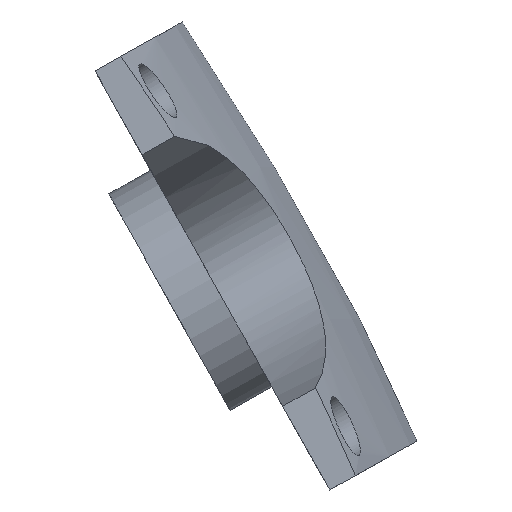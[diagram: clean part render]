
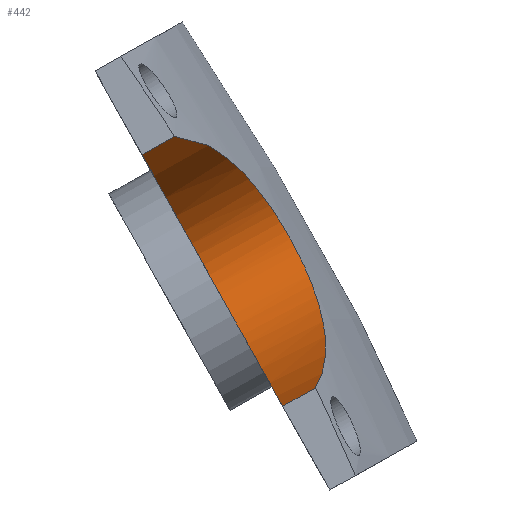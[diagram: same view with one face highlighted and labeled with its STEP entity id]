
A CAD part, left-side view. The second image highlights one B-rep face of the part: STEP entity #442.
In plain terms, the highlighted free-form (B-spline) face has degree [3, 1] with [4, 2] control points.
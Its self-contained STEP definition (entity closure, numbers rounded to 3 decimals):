
#15=B_SPLINE_SURFACE_WITH_KNOTS('',3,1,((#1077,#1078),(#1079,#1080),(#1081,
#1082),(#1083,#1084)),.UNSPECIFIED.,.F.,.F.,.F.,(4,4),(2,2),(0.,1.),(0.,
0.667),.UNSPECIFIED.);
#17=B_SPLINE_CURVE_WITH_KNOTS('',3,(#647,#648,#649,#650),.UNSPECIFIED.,
 .F.,.F.,(4,4),(0.,1.),.UNSPECIFIED.);
#19=B_SPLINE_CURVE_WITH_KNOTS('',3,(#720,#721,#722,#723,#724,#725,#726,
#727,#728,#729,#730,#731,#732,#733,#734,#735,#736,#737,#738,#739,#740,#741),
 .UNSPECIFIED.,.F.,.F.,(4,2,2,2,2,2,2,2,2,2,4),(0.,0.704,1.205,
1.522,1.728,1.897,2.066,2.267,
2.572,3.051,3.552),.UNSPECIFIED.);
#57=LINE('',#699,#81);
#62=LINE('',#716,#86);
#81=VECTOR('',#575,2.338);
#86=VECTOR('',#594,2.338);
#118=FACE_OUTER_BOUND('',#154,.T.);
#154=EDGE_LOOP('',(#371,#372,#373,#374));
#193=VERTEX_POINT('',#645);
#194=VERTEX_POINT('',#646);
#211=VERTEX_POINT('',#698);
#216=VERTEX_POINT('',#714);
#235=EDGE_CURVE('',#193,#194,#17,.T.);
#258=EDGE_CURVE('',#211,#193,#57,.T.);
#267=EDGE_CURVE('',#216,#194,#62,.T.);
#269=EDGE_CURVE('',#211,#216,#19,.T.);
#371=ORIENTED_EDGE('',*,*,#258,.T.);
#372=ORIENTED_EDGE('',*,*,#235,.T.);
#373=ORIENTED_EDGE('',*,*,#267,.F.);
#374=ORIENTED_EDGE('',*,*,#269,.F.);
#442=ADVANCED_FACE('',(#118),#15,.F.);
#575=DIRECTION('',(0.,0.873,-0.488));
#594=DIRECTION('',(0.,0.873,-0.488));
#645=CARTESIAN_POINT('',(-164.739,-163.783,224.037));
#646=CARTESIAN_POINT('',(-164.739,-172.574,208.331));
#647=CARTESIAN_POINT('Ctrl Pts',(-164.739,-163.783,224.037));
#648=CARTESIAN_POINT('Ctrl Pts',(-144.739,-165.241,221.431));
#649=CARTESIAN_POINT('Ctrl Pts',(-144.739,-171.153,210.869));
#650=CARTESIAN_POINT('Ctrl Pts',(-164.739,-172.574,208.331));
#698=CARTESIAN_POINT('',(-164.739,-165.822,225.179));
#699=CARTESIAN_POINT('',(-164.739,-165.822,225.179));
#714=CARTESIAN_POINT('',(-164.739,-174.614,209.472));
#716=CARTESIAN_POINT('',(-164.739,-174.614,209.472));
#720=CARTESIAN_POINT('Ctrl Pts',(-164.739,-165.822,225.179));
#721=CARTESIAN_POINT('Ctrl Pts',(-162.49,-166.491,225.168));
#722=CARTESIAN_POINT('Ctrl Pts',(-160.177,-167.208,225.));
#723=CARTESIAN_POINT('Ctrl Pts',(-156.468,-168.522,224.296));
#724=CARTESIAN_POINT('Ctrl Pts',(-154.893,-169.131,223.859));
#725=CARTESIAN_POINT('Ctrl Pts',(-152.643,-170.206,222.817));
#726=CARTESIAN_POINT('Ctrl Pts',(-151.798,-170.667,222.309));
#727=CARTESIAN_POINT('Ctrl Pts',(-150.688,-171.473,221.272));
#728=CARTESIAN_POINT('Ctrl Pts',(-150.315,-171.808,220.805));
#729=CARTESIAN_POINT('Ctrl Pts',(-149.861,-172.435,219.845));
#730=CARTESIAN_POINT('Ctrl Pts',(-149.745,-172.716,219.384));
#731=CARTESIAN_POINT('Ctrl Pts',(-149.733,-173.26,218.414));
#732=CARTESIAN_POINT('Ctrl Pts',(-149.835,-173.509,217.934));
#733=CARTESIAN_POINT('Ctrl Pts',(-150.262,-174.,216.906));
#734=CARTESIAN_POINT('Ctrl Pts',(-150.615,-174.223,216.384));
#735=CARTESIAN_POINT('Ctrl Pts',(-151.669,-174.684,215.177));
#736=CARTESIAN_POINT('Ctrl Pts',(-152.471,-174.877,214.533));
#737=CARTESIAN_POINT('Ctrl Pts',(-154.605,-175.211,213.11));
#738=CARTESIAN_POINT('Ctrl Pts',(-156.25,-175.304,212.279));
#739=CARTESIAN_POINT('Ctrl Pts',(-160.345,-175.177,210.682));
#740=CARTESIAN_POINT('Ctrl Pts',(-162.57,-174.946,210.02));
#741=CARTESIAN_POINT('Ctrl Pts',(-164.739,-174.614,209.472));
#1077=CARTESIAN_POINT('Ctrl Pts',(-164.739,-168.635,226.754));
#1078=CARTESIAN_POINT('Ctrl Pts',(-164.739,-162.812,223.494));
#1079=CARTESIAN_POINT('Ctrl Pts',(-144.739,-170.094,224.148));
#1080=CARTESIAN_POINT('Ctrl Pts',(-144.739,-164.271,220.888));
#1081=CARTESIAN_POINT('Ctrl Pts',(-144.739,-176.006,213.586));
#1082=CARTESIAN_POINT('Ctrl Pts',(-144.739,-170.183,210.326));
#1083=CARTESIAN_POINT('Ctrl Pts',(-164.739,-177.427,211.047));
#1084=CARTESIAN_POINT('Ctrl Pts',(-164.739,-171.604,207.787));
